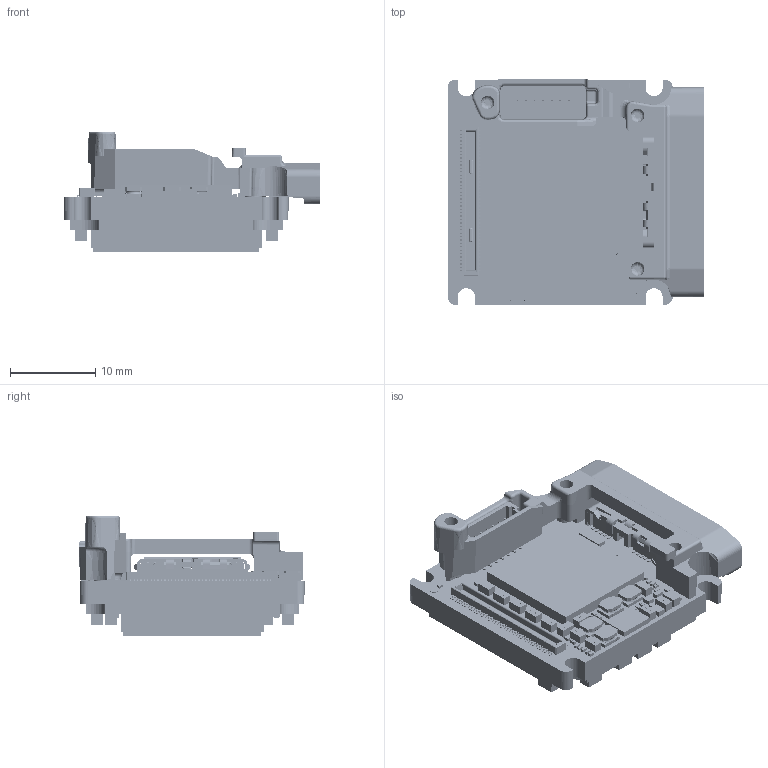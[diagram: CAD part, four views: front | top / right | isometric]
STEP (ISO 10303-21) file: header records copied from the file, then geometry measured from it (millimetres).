
FILE_DESCRIPTION (( 'STEP AP214' ), '1' );
FILE_NAME ('Alvium-USB90-Bare-Board-IMX421-422-426.STEP', '2022-12-02T10:43:26', ( '' ), ( '' ), 'SwSTEP 2.0', 'SolidWorks 2021', '' );
FILE_SCHEMA (( 'AUTOMOTIVE_DESIGN' ));
Length unit declared in the file: millimetre
Products named in the file (1): Alvium-USB90-Bare-Board-IMX421-422-426
Bounding box: 30.1 x 26.45 x 14.14 mm (x, y, z)
Volume: 4393.7 mm3; surface area: 6441.4 mm2
Topology: 172 solids, 172 shells, 11598 faces, 29501 edges, 19327 vertices
Faces by surface type: plane 5770, bspline 4489, cylinder 1261, cone 38, torus 32, sphere 8
Entity records: 732701 total; most frequent: CARTESIAN_POINT 352868, ORIENTED_EDGE 58956, DIRECTION 37024, EDGE_CURVE 29478, VERTEX_POINT 19327, LINE 17756, VECTOR 17756, EDGE_LOOP 12745
